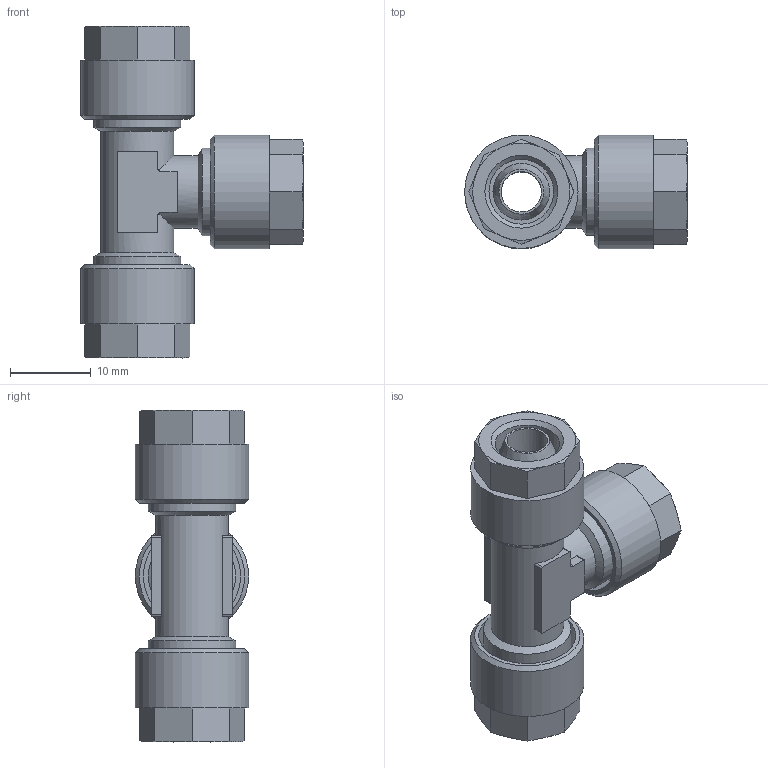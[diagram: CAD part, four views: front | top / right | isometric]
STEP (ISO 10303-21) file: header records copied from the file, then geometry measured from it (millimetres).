
FILE_DESCRIPTION(/* description */ (''),/* implementation_level */ '2;1');
FILE_NAME(/* name */ '12305_309_8-6_10.03.16',/* time_stamp */ '2016-03-10T10:57:44+01:00',/* author */ (''),/* organization */ (''),/* preprocessor_version */ 'ST-DEVELOPER v14',/* originating_system */ 'HiCAD 2013 1802.4 Build 509',/* authorisation */ '');
FILE_SCHEMA (('AUTOMOTIVE_DESIGN { 1 0 10303 214 1 1 1 1 }'));
Length unit declared in the file: millimetre
Products named in the file (5): Root; R12305; 17006
Assembly tree (4 placements, depth 2):
  Root
    R12305
    17006
    17006
    17006
Bounding box: 27.5 x 14 x 41 mm (x, y, z)
Volume: 4539.2 mm3; surface area: 5908.4 mm2
Topology: 4 solids, 4 shells, 146 faces, 355 edges, 228 vertices
Faces by surface type: plane 63, cone 42, cylinder 38, torus 3
Full cylindrical faces by diameter (mm): 5 x2, 6.5 x3, 8 x3, 9 x2, 10.773 x6, 12 x3, 14 x3
Entity records: 9535 total; most frequent: CARTESIAN_POINT 3420, DIRECTION 730, PRESENTATION_STYLE_ASSIGNMENT 572, COLOUR_RGB 569, DRAUGHTING_PRE_DEFINED_CURVE_FONT 568, CURVE_STYLE 568, OVER_RIDING_STYLED_ITEM 568, ORIENTED_EDGE 568
